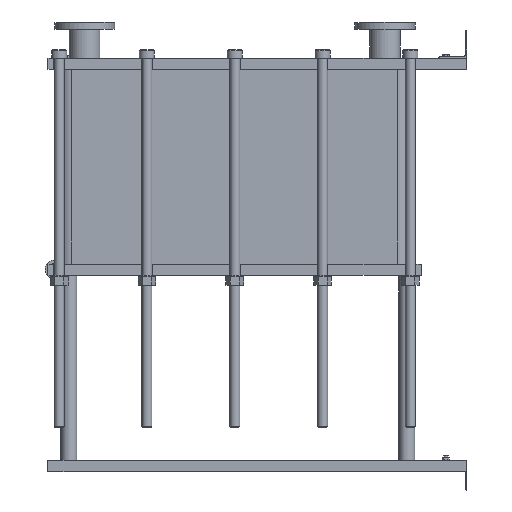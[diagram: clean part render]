
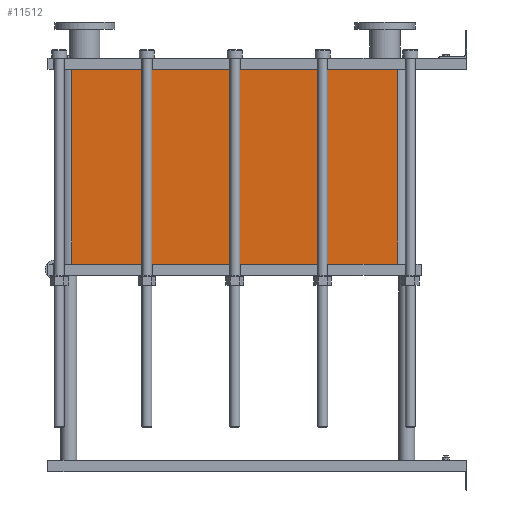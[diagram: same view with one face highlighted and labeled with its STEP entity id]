
A CAD part, left-side view. The second image highlights one B-rep face of the part: STEP entity #11512.
In plain terms, the highlighted planar face has unit normal (-1, 0, 0).
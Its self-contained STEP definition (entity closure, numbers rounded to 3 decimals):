
#1129=LINE('',#23232,#2102);
#1130=LINE('',#23236,#2103);
#1131=LINE('',#23238,#2104);
#1132=LINE('',#23239,#2105);
#2102=VECTOR('',#15887,10.);
#2103=VECTOR('',#15892,10.);
#2104=VECTOR('',#15893,10.);
#2105=VECTOR('',#15894,10.);
#3267=FACE_OUTER_BOUND('',#4093,.T.);
#4093=EDGE_LOOP('',(#10103,#10104,#10105,#10106));
#5642=VERTEX_POINT('',#23229);
#5643=VERTEX_POINT('',#23231);
#5644=VERTEX_POINT('',#23235);
#5645=VERTEX_POINT('',#23237);
#7159=EDGE_CURVE('',#5643,#5642,#1129,.T.);
#7161=EDGE_CURVE('',#5642,#5644,#1130,.T.);
#7162=EDGE_CURVE('',#5645,#5644,#1131,.T.);
#7163=EDGE_CURVE('',#5645,#5643,#1132,.T.);
#10103=ORIENTED_EDGE('',*,*,#7161,.T.);
#10104=ORIENTED_EDGE('',*,*,#7162,.F.);
#10105=ORIENTED_EDGE('',*,*,#7163,.T.);
#10106=ORIENTED_EDGE('',*,*,#7159,.T.);
#10857=PLANE('',#12751);
#11512=ADVANCED_FACE('',(#3267),#10857,.T.);
#12751=AXIS2_PLACEMENT_3D('',#23234,#15890,#15891);
#15887=DIRECTION('',(0.,0.,-1.));
#15890=DIRECTION('center_axis',(-1.,0.,0.));
#15891=DIRECTION('ref_axis',(0.,1.,0.));
#15892=DIRECTION('',(0.,-1.,0.));
#15893=DIRECTION('',(0.,0.,-1.));
#15894=DIRECTION('',(0.,1.,0.));
#23229=CARTESIAN_POINT('',(-200.,1414.,-696.9));
#23231=CARTESIAN_POINT('',(-200.,1414.,0.));
#23232=CARTESIAN_POINT('',(-200.,1414.,0.));
#23234=CARTESIAN_POINT('Origin',(-200.,248.,0.));
#23235=CARTESIAN_POINT('',(-200.,248.,-696.9));
#23236=CARTESIAN_POINT('',(-200.,539.5,-696.9));
#23237=CARTESIAN_POINT('',(-200.,248.,0.));
#23238=CARTESIAN_POINT('',(-200.,248.,0.));
#23239=CARTESIAN_POINT('',(-200.,248.,0.));
